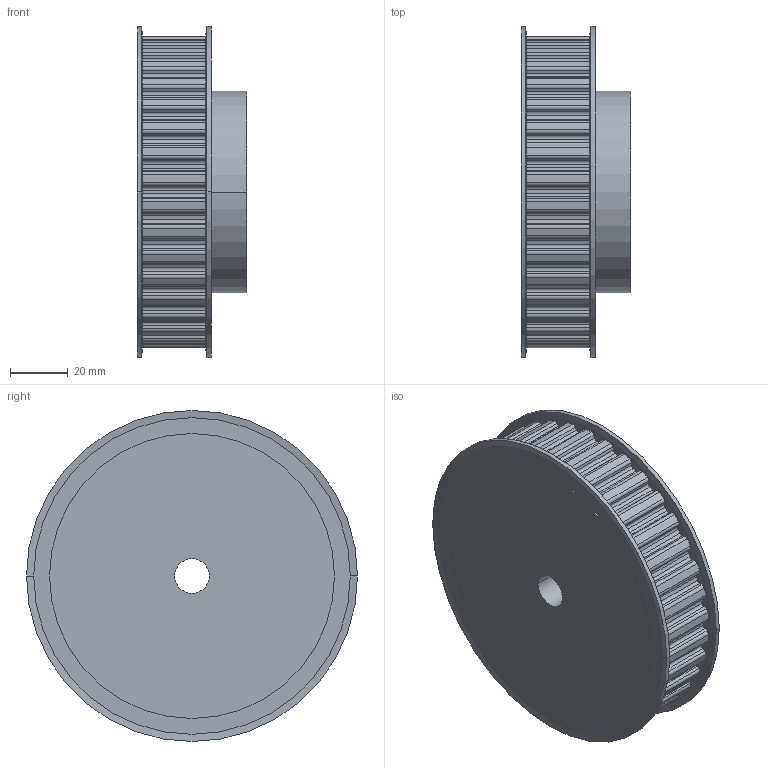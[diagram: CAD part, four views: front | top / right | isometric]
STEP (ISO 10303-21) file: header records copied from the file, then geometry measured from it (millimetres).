
FILE_DESCRIPTION( ( '' ), '1' );
FILE_NAME( 'C:/Users/Stangenbergd/Documents/CAD_Step/1/18223600.stp', '2021-10-19T10:38:10', ( '' ), ( '' ), ' ', ' ', ' ' );
FILE_SCHEMA( ( 'CONFIG_CONTROL_DESIGN' ) );
Length unit declared in the file: millimetre
Products named in the file (1): 1
Bounding box: 38.2 x 115 x 115 mm (x, y, z)
Volume: 273089.7 mm3; surface area: 38763.9 mm2
Topology: 1 solids, 1 shells, 315 faces, 916 edges, 608 vertices
Faces by surface type: cylinder 192, plane 115, cone 8
Entity records: 10606 total; most frequent: DIRECTION 1940, CARTESIAN_POINT 1840, ORIENTED_EDGE 1832, EDGE_CURVE 916, AXIS2_PLACEMENT_3D 708, VERTEX_POINT 608, LINE 524, VECTOR 524
